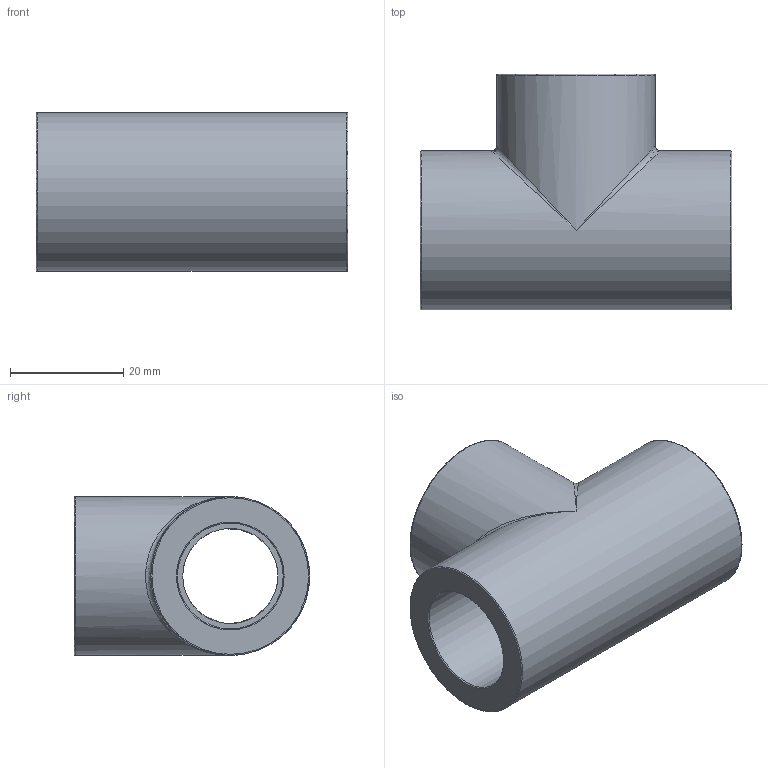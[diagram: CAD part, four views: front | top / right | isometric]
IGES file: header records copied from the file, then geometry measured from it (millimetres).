
Global section: file name: 050401005.ipt; native system: Autodesk Inventor 2015; preprocessor: unknown; author: KIM; date: 20171207.164449; units: millimetre
Bounding box: 55 x 41.5 x 28 mm (x, y, z)
Volume: 24197.6 mm3; surface area: 10911.9 mm2
Topology: 1 solids, 1 shells, 20 faces, 60 edges, 41 vertices
Faces by surface type: revolution 10, plane 6, bspline 2, cylinder 2
Full cylindrical faces by diameter (mm): 28 x2
